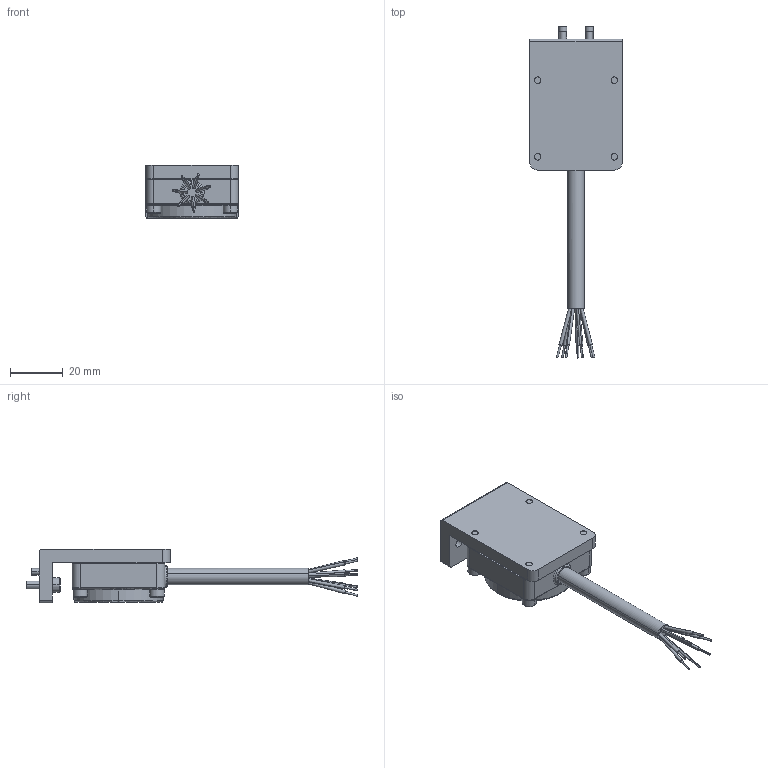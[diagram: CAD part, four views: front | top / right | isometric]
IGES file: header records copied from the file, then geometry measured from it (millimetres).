
Start section: 3D InterOp IGES (v. 2022 1.0.0), Spatial Corp. Copyright (c) 1999-2020.
Global section: file name: KHB-3RS-NN4,NP4_ver1.igs; native system: Spatial Corp.; preprocessor: 3D InterOp GENERIC/IGES 3.0; author: Noname; organization: Noname; date: 20260424.092145; units: millimetre
Bounding box: 35 x 125.57 x 20.2 mm (x, y, z)
Surface area: 12899.5 mm2 (no closed solid volume)
Topology: 0 solids, 0 shells, 343 faces, 1610 edges, 1606 vertices
Faces by surface type: revolution 210, extrusion 120, bspline 13
